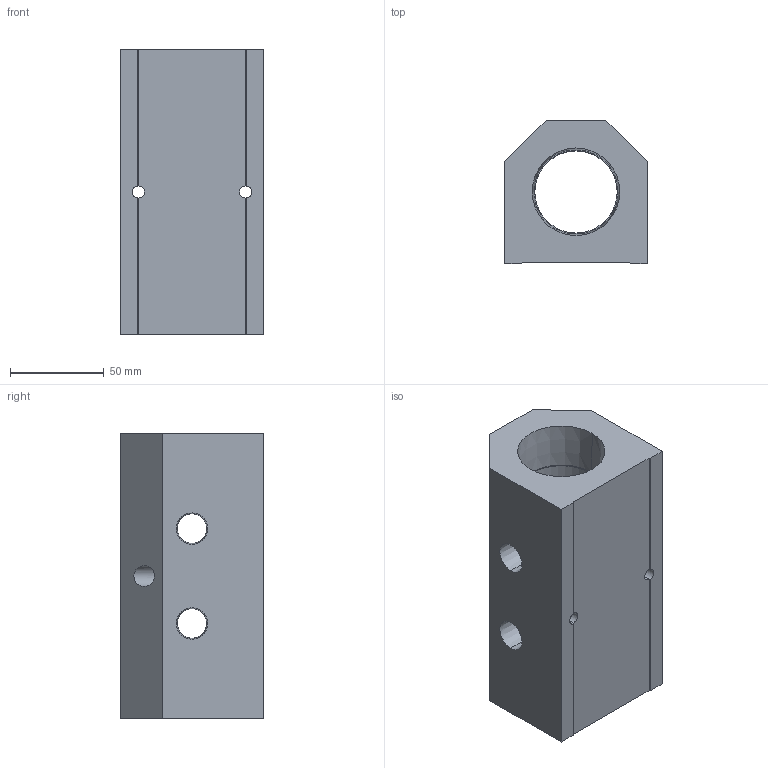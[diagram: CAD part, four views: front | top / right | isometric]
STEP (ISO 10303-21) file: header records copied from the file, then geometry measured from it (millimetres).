
FILE_DESCRIPTION (( 'STEP AP214' ), '1' );
FILE_NAME ('ALM2ACE-N6N24-152R.step', '2022-02-07T07:57:53', ( '' ), ( '' ), 'SwSTEP 2.0', 'SolidWorks 2020', '' );
FILE_SCHEMA (( 'AUTOMOTIVE_DESIGN' ));
Length unit declared in the file: millimetre
Products named in the file (1): ALM2ACE-N6N24-152R
Bounding box: 76.2 x 76.2 x 152 mm (x, y, z)
Volume: 539849.6 mm3; surface area: 76416.7 mm2
Topology: 1 solids, 1 shells, 297 faces, 792 edges, 524 vertices
Faces by surface type: plane 218, bspline 53, cone 16, cylinder 10
Entity records: 16147 total; most frequent: CARTESIAN_POINT 6151, ORIENTED_EDGE 1584, DIRECTION 1192, EDGE_CURVE 792, LINE 630, VECTOR 630, VERTEX_POINT 524, EDGE_LOOP 342
